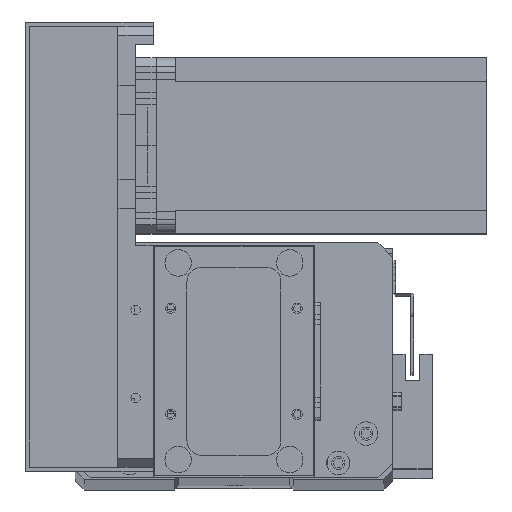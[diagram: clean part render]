
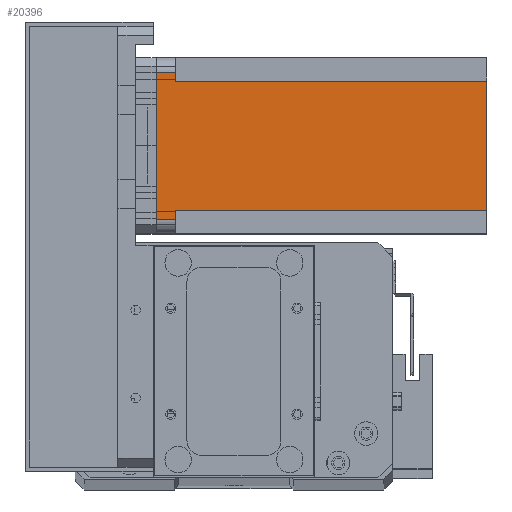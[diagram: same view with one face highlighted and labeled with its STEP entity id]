
A CAD part, top view. The second image highlights one B-rep face of the part: STEP entity #20396.
In plain terms, the highlighted planar face has unit normal (0, 0, 1) as drawn and (0, -1, 0) by its records, which use the part's own axes.
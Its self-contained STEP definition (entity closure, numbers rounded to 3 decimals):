
#1317 = VECTOR ( 'NONE', #12194, 1000. ) ;
#1543 = AXIS2_PLACEMENT_3D ( 'NONE', #14695, #19845, #4510 ) ;
#1656 = ORIENTED_EDGE ( 'NONE', *, *, #28686, .T. ) ;
#1685 = LINE ( 'NONE', #29864, #14531 ) ;
#2125 = DIRECTION ( 'NONE',  ( 0., 0., 1. ) ) ;
#2564 = FACE_OUTER_BOUND ( 'NONE', #8240, .T. ) ;
#3208 = ORIENTED_EDGE ( 'NONE', *, *, #15213, .T. ) ;
#3772 = VECTOR ( 'NONE', #23064, 1000. ) ;
#4510 = DIRECTION ( 'NONE',  ( 0., 0., -1. ) ) ;
#5585 = VECTOR ( 'NONE', #20013, 1000. ) ;
#6979 = ORIENTED_EDGE ( 'NONE', *, *, #31450, .F. ) ;
#7960 = ORIENTED_EDGE ( 'NONE', *, *, #19656, .F. ) ;
#8218 = LINE ( 'NONE', #27351, #1317 ) ;
#8240 = EDGE_LOOP ( 'NONE', ( #31478, #9906, #6979, #1656, #7960, #30873, #3208, #10966 ) ) ;
#9224 = VECTOR ( 'NONE', #13934, 1000. ) ;
#9832 = CARTESIAN_POINT ( 'NONE',  ( 5., 0., 0. ) ) ;
#9906 = ORIENTED_EDGE ( 'NONE', *, *, #21922, .T. ) ;
#10554 = CARTESIAN_POINT ( 'NONE',  ( 52., 0., -112.5 ) ) ;
#10966 = ORIENTED_EDGE ( 'NONE', *, *, #30571, .F. ) ;
#11530 = LINE ( 'NONE', #32515, #5585 ) ;
#12194 = DIRECTION ( 'NONE',  ( 0., 0., -1. ) ) ;
#12441 = CARTESIAN_POINT ( 'NONE',  ( 8., 0., -112.5 ) ) ;
#13934 = DIRECTION ( 'NONE',  ( -1., 0., 0. ) ) ;
#13952 = CARTESIAN_POINT ( 'NONE',  ( 0., 0., 0. ) ) ;
#14531 = VECTOR ( 'NONE', #24821, 1000. ) ;
#14577 = CARTESIAN_POINT ( 'NONE',  ( 8., 0., -6.5 ) ) ;
#14695 = CARTESIAN_POINT ( 'NONE',  ( 0., 0., -112.5 ) ) ;
#14788 = CARTESIAN_POINT ( 'NONE',  ( 5., 0., -6.5 ) ) ;
#15213 = EDGE_CURVE ( 'NONE', #31747, #18776, #30856, .T. ) ;
#15566 = VECTOR ( 'NONE', #16502, 1000. ) ;
#15625 = LINE ( 'NONE', #10554, #29127 ) ;
#16152 = VECTOR ( 'NONE', #2125, 1000. ) ;
#16424 = VERTEX_POINT ( 'NONE', #24382 ) ;
#16502 = DIRECTION ( 'NONE',  ( 1., 0., 0. ) ) ;
#18776 = VERTEX_POINT ( 'NONE', #27664 ) ;
#19656 = EDGE_CURVE ( 'NONE', #28623, #28713, #22791, .T. ) ;
#19845 = DIRECTION ( 'NONE',  ( 0., -1., 0. ) ) ;
#20013 = DIRECTION ( 'NONE',  ( 1., 0., 0. ) ) ;
#20396 = ADVANCED_FACE ( 'NONE', ( #2564 ), #29776, .T. ) ;
#20480 = CARTESIAN_POINT ( 'NONE',  ( 0., 0., -112.5 ) ) ;
#21407 = EDGE_CURVE ( 'NONE', #31747, #28623, #29635, .T. ) ;
#21922 = EDGE_CURVE ( 'NONE', #16424, #22443, #1685, .T. ) ;
#22443 = VERTEX_POINT ( 'NONE', #25013 ) ;
#22791 = LINE ( 'NONE', #29142, #9224 ) ;
#23064 = DIRECTION ( 'NONE',  ( 1., 0., 0. ) ) ;
#24120 = CARTESIAN_POINT ( 'NONE',  ( 52., 0., -6.5 ) ) ;
#24382 = CARTESIAN_POINT ( 'NONE',  ( 55., 0., -6.5 ) ) ;
#24626 = EDGE_CURVE ( 'NONE', #31438, #16424, #11530, .T. ) ;
#24821 = DIRECTION ( 'NONE',  ( 0., 0., 1. ) ) ;
#25013 = CARTESIAN_POINT ( 'NONE',  ( 55., 0., 0. ) ) ;
#25240 = VERTEX_POINT ( 'NONE', #9832 ) ;
#27351 = CARTESIAN_POINT ( 'NONE',  ( 5., 0., -112.5 ) ) ;
#27664 = CARTESIAN_POINT ( 'NONE',  ( 52., 0., -112.5 ) ) ;
#28047 = CARTESIAN_POINT ( 'NONE',  ( 8., 0., -112.5 ) ) ;
#28326 = DIRECTION ( 'NONE',  ( 0., 0., -1. ) ) ;
#28623 = VERTEX_POINT ( 'NONE', #14577 ) ;
#28686 = EDGE_CURVE ( 'NONE', #25240, #28713, #8218, .T. ) ;
#28713 = VERTEX_POINT ( 'NONE', #14788 ) ;
#29060 = LINE ( 'NONE', #13952, #15566 ) ;
#29127 = VECTOR ( 'NONE', #28326, 1000. ) ;
#29142 = CARTESIAN_POINT ( 'NONE',  ( 8., 0., -6.5 ) ) ;
#29635 = LINE ( 'NONE', #12441, #16152 ) ;
#29776 = PLANE ( 'NONE',  #1543 ) ;
#29864 = CARTESIAN_POINT ( 'NONE',  ( 55., 0., -112.5 ) ) ;
#30571 = EDGE_CURVE ( 'NONE', #31438, #18776, #15625, .T. ) ;
#30856 = LINE ( 'NONE', #20480, #3772 ) ;
#30873 = ORIENTED_EDGE ( 'NONE', *, *, #21407, .F. ) ;
#31438 = VERTEX_POINT ( 'NONE', #24120 ) ;
#31450 = EDGE_CURVE ( 'NONE', #25240, #22443, #29060, .T. ) ;
#31478 = ORIENTED_EDGE ( 'NONE', *, *, #24626, .T. ) ;
#31747 = VERTEX_POINT ( 'NONE', #28047 ) ;
#32515 = CARTESIAN_POINT ( 'NONE',  ( 52., 0., -6.5 ) ) ;
